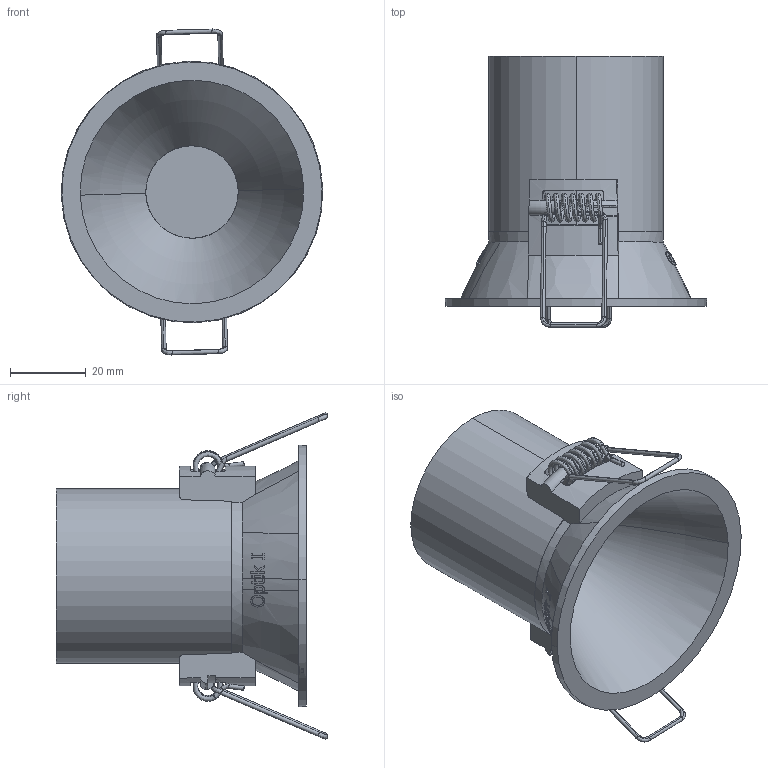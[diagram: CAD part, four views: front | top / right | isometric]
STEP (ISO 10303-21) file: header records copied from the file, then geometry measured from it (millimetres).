
FILE_DESCRIPTION (( 'STEP AP214' ), '1' );
FILE_NAME ('Optik 1.STEP', '2020-03-02T10:23:16', ( '' ), ( '' ), 'SwSTEP 2.0', 'SolidWorks 2018', '' );
FILE_SCHEMA (( 'AUTOMOTIVE_DESIGN' ));
Length unit declared in the file: millimetre
Products named in the file (10): cupula_S_IMP_08-11-18; Muelle Optik_10X-11X; Ensamble Cupulas_Cupula S; Lente; Ensamble Modulo LED; Frenacable STEAB 5424_2; Tornillo DIN 7981 Ø2.2; M3-Philips -Generico_*9; disipador FINO_CHINA; Optik 1
Assembly tree (11 placements, depth 3):
  Optik 1
    Ensamble Modulo LED
      disipador FINO_CHINA
      Frenacable STEAB 5424_2
      M3-Philips -Generico_*9
      Tornillo DIN 7981 Ø2.2  x2
    Ensamble Cupulas_Cupula S
      Muelle Optik_10X-11X  x2
      Lente
      cupula_S_IMP_08-11-18
Bounding box: 69.03 x 71.55 x 86.04 mm (x, y, z)
Volume: 60924.6 mm3; surface area: 38838.4 mm2
Topology: 9 solids, 9 shells, 615 faces, 1582 edges, 1001 vertices
Faces by surface type: plane 228, bspline 227, cylinder 81, cone 48, torus 27, sphere 4
Entity records: 25963 total; most frequent: CARTESIAN_POINT 13560, ORIENTED_EDGE 2890, DIRECTION 1898, EDGE_CURVE 1445, VERTEX_POINT 932, AXIS2_PLACEMENT_3D 745, B_SPLINE_CURVE_WITH_KNOTS 608, EDGE_LOOP 607
